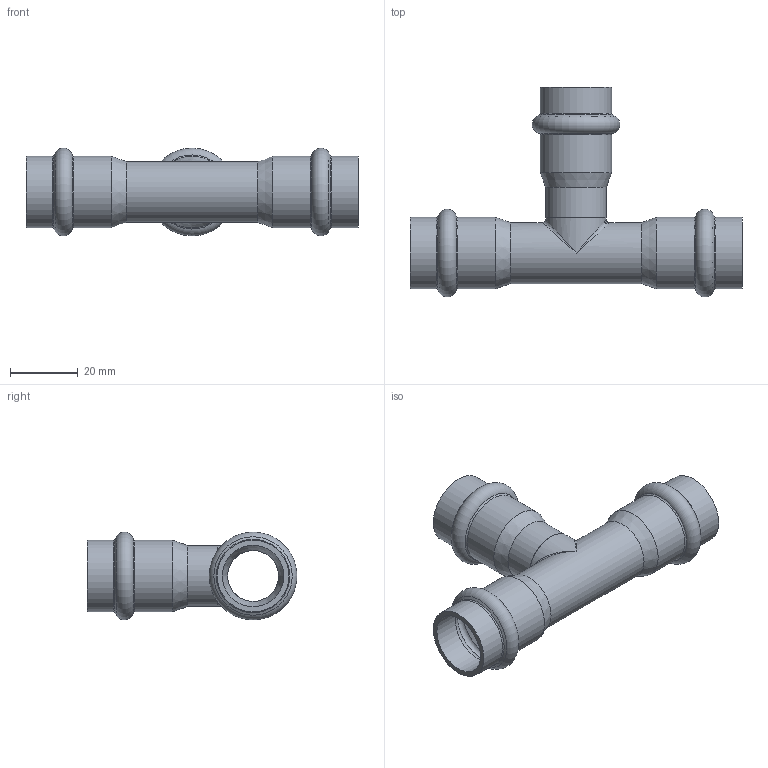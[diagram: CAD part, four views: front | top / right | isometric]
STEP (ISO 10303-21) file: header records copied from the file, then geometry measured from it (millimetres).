
FILE_DESCRIPTION((''),'2;1');
FILE_NAME('G:\Nirosan-Schmiedefeld\Technics\CAD\Bauteile VA\018\6913018(1).stp','2009-12-09T09:42:08',('herberg'),(''),'Autodesk Inventor 2009','Autodesk Inventor 2009','');
FILE_SCHEMA(('AUTOMOTIVE_DESIGN { 1 0 10303 214 1 1 1 1 }'));
Length unit declared in the file: millimetre
Products named in the file (3): 6913018(1); LM_6913018(1); HM_6913018(1)
Assembly tree (2 placements, depth 2):
  6913018(1)
    LM_6913018(1)
    HM_6913018(1)
Bounding box: 98 x 61.95 x 25.9 mm (x, y, z)
Volume: 12768.2 mm3; surface area: 17452 mm2
Topology: 2 solids, 2 shells, 57 faces, 125 edges, 64 vertices
Faces by surface type: cylinder 18, bspline 15, cone 12, torus 7, plane 5
Full cylindrical faces by diameter (mm): 15 x3, 18 x3, 18.15 x6, 21.15 x6
Entity records: 2340 total; most frequent: CARTESIAN_POINT 1322, DIRECTION 214, ORIENTED_EDGE 120, EDGE_LOOP 112, AXIS2_PLACEMENT_3D 107, EDGE_CURVE 60, FACE_OUTER_BOUND 57, ADVANCED_FACE 57
